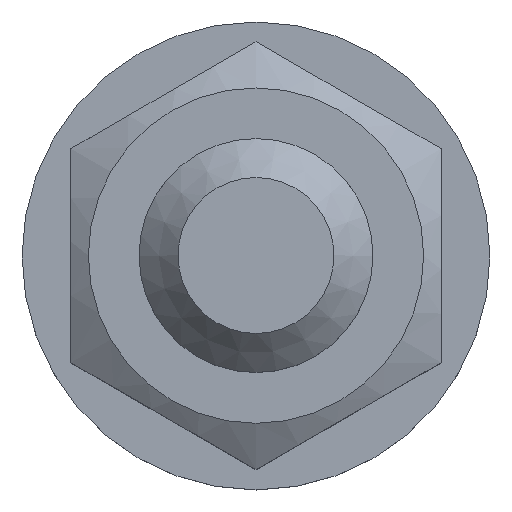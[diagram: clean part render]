
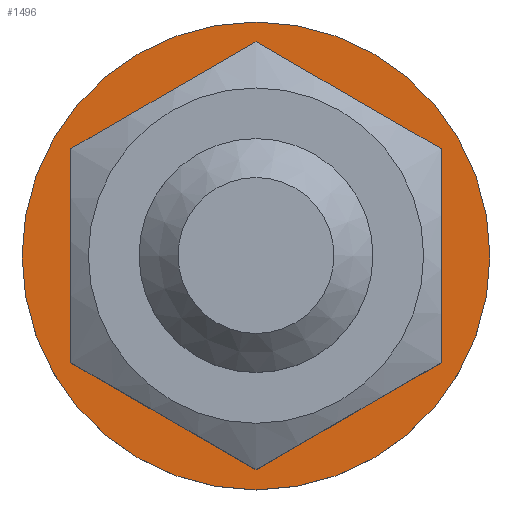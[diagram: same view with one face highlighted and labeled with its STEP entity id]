
A CAD part, top view. The second image highlights one B-rep face of the part: STEP entity #1496.
In plain terms, the highlighted planar face has unit normal (0, 0, 1) as drawn and (1, 0, 0) by its records, which use the part's own axes.
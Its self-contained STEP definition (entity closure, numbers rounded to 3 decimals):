
#1434=CARTESIAN_POINT('',(2.5,6.5,0.));
#1435=VERTEX_POINT('',#1434);
#1436=CARTESIAN_POINT('',(2.5,0.0,0.0));
#1437=DIRECTION('',(-1.0,0.0,0.0));
#1438=DIRECTION('',(0.0,-1.0,0.0));
#1439=AXIS2_PLACEMENT_3D('',#1436,#1437,#1438);
#1440=CIRCLE('',#1439,6.5);
#1441=EDGE_CURVE('',#1435,#1435,#1440,.T.);
#1462=CARTESIAN_POINT('',(2.5,12.,0.));
#1463=VERTEX_POINT('',#1462);
#1464=CARTESIAN_POINT('',(2.5,0.0,0.0));
#1465=DIRECTION('',(-1.0,0.0,0.0));
#1466=DIRECTION('',(0.0,-1.0,0.0));
#1467=AXIS2_PLACEMENT_3D('',#1464,#1465,#1466);
#1468=CIRCLE('',#1467,12.);
#1469=EDGE_CURVE('',#1463,#1463,#1468,.T.);
#1485=CARTESIAN_POINT('',(2.5,0.0,0.0));
#1486=DIRECTION('',(-1.0,0.0,0.0));
#1487=DIRECTION('',(0.0,0.0,1.0));
#1488=AXIS2_PLACEMENT_3D('',#1485,#1486,#1487);
#1489=PLANE('',#1488);
#1490=ORIENTED_EDGE('',*,*,#1469,.F.);
#1491=EDGE_LOOP('',(#1490));
#1492=FACE_OUTER_BOUND('',#1491,.T.);
#1493=ORIENTED_EDGE('',*,*,#1441,.T.);
#1494=EDGE_LOOP('',(#1493));
#1495=FACE_BOUND('',#1494,.T.);
#1496=ADVANCED_FACE('',(#1492,#1495),#1489,.F.);
